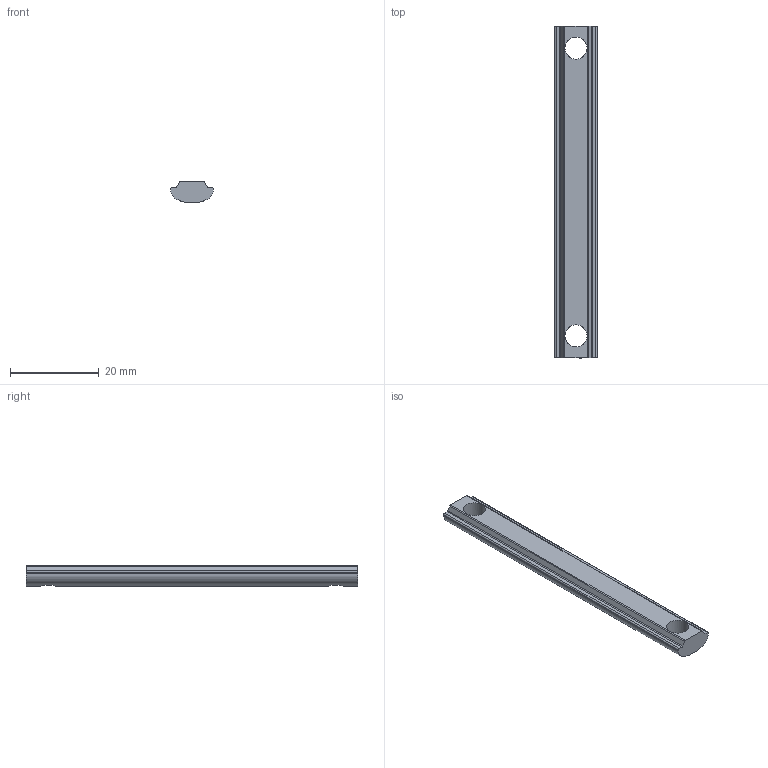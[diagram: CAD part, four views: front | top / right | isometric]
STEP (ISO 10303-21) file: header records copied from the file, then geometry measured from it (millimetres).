
FILE_DESCRIPTION(('STEP AP214'),'1');
FILE_NAME('NFM5-P65.stp','2016-10-19T00:47:38',(' '),(' '),'Spatial InterOp 3D',' ',' ');
FILE_SCHEMA(('automotive_design'));
Length unit declared in the file: millimetre
Products named in the file (1): NFM5-P65
Bounding box: 9.6 x 75 x 4.7 mm (x, y, z)
Volume: 2515.5 mm3; surface area: 1960.9 mm2
Topology: 1 solids, 1 shells, 30 faces, 90 edges, 60 vertices
Faces by surface type: cylinder 16, plane 14
Full cylindrical faces by diameter (mm): 5 x2
Entity records: 1284 total; most frequent: CARTESIAN_POINT 215, ORIENTED_EDGE 172, DIRECTION 170, EDGE_CURVE 86, AXIS2_PLACEMENT_3D 61, VERTEX_POINT 58, LINE 48, VECTOR 48
